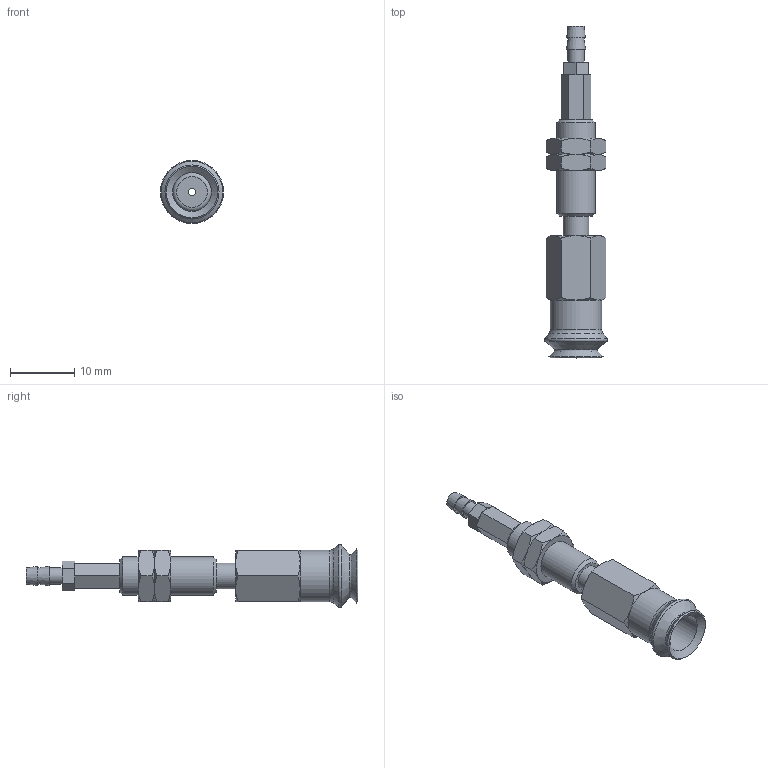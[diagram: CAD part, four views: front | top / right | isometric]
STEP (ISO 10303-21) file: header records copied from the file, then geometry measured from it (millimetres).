
FILE_DESCRIPTION(('STEP AP203'),'1');
FILE_NAME('-T.stp','2025-08-27T07:23:10',(' '),(' '),'Spatial InterOp 3D',' ',' ');
FILE_SCHEMA(('CONFIG_CONTROL_DESIGN'));
Length unit declared in the file: millimetre
Products named in the file (7): BNABPJTS-8-3-※-T; ADAPTER; NAPCTS-7-3-MBODY; NUT-NAPJ-8-3-s; NAPJTS-8-3-FBODY; BPJG-8-※; T (2)
Assembly tree (7 placements, depth 2):
  BNABPJTS-8-3-※-T
    ADAPTER
    NAPCTS-7-3-MBODY
    NUT-NAPJ-8-3-s  x2
    NAPJTS-8-3-FBODY
    BPJG-8-※
    T (2)
Bounding box: 9.8 x 51.6 x 9.8 mm (x, y, z)
Volume: 1598.2 mm3; surface area: 2449.2 mm2
Topology: 7 solids, 7 shells, 132 faces, 274 edges, 163 vertices
Faces by surface type: plane 57, cone 52, cylinder 16, torus 7
Full cylindrical faces by diameter (mm): 1.2 x3, 2.459 x1, 2.5 x1, 3 x1, 4 x4, 5.188 x2, 6 x3, 8 x1
Entity records: 3160 total; most frequent: CARTESIAN_POINT 695, DIRECTION 450, ORIENTED_EDGE 368, AXIS2_PLACEMENT_3D 198, EDGE_CURVE 184, EDGE_LOOP 163, FACE_OUTER_BOUND 131, VERTEX_POINT 129
